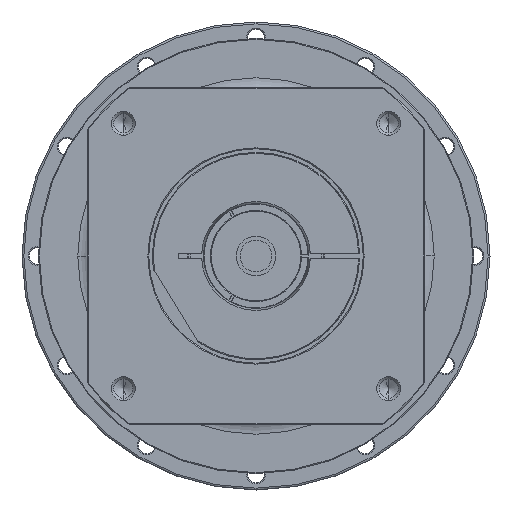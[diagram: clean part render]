
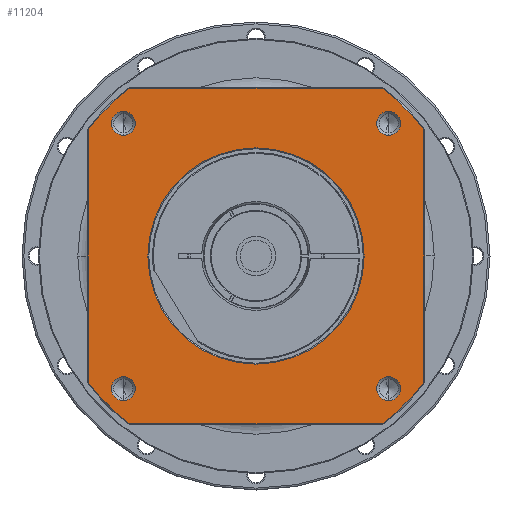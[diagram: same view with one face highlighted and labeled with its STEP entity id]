
A CAD part, left-side view. The second image highlights one B-rep face of the part: STEP entity #11204.
In plain terms, the highlighted planar face has unit normal (-1, 0, 0) as drawn and (0, 0, 1) by its records, which use the part's own axes.
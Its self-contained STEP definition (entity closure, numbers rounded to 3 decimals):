
#9932=DIRECTION('',(1.,0.,0.));
#9933=VECTOR('',#9932,134.666);
#9934=CARTESIAN_POINT('',(-67.333,-89.5,54.));
#9935=LINE('',#9934,#9933);
#9945=CARTESIAN_POINT('',(0.,0.,54.));
#9946=DIRECTION('',(0.,0.,-1.));
#9947=DIRECTION('',(0.,-1.,0.));
#9948=AXIS2_PLACEMENT_3D('',#9945,#9946,#9947);
#9950=CARTESIAN_POINT('',(0.,0.,
54.));
#9951=DIRECTION('',(0.,0.,-1.));
#9952=DIRECTION('',(0.,1.,0.));
#9953=AXIS2_PLACEMENT_3D('',#9950,#9951,#9952);
#9955=CARTESIAN_POINT('',(0.,0.,54.));
#9956=DIRECTION('',(0.,0.,1.));
#9957=DIRECTION('',(-0.799,-0.601,0.));
#9958=AXIS2_PLACEMENT_3D('',#9955,#9956,#9957);
#9970=DIRECTION('',(0.,-1.,0.));
#9971=VECTOR('',#9970,134.666);
#9972=CARTESIAN_POINT('',(-89.5,67.333,54.));
#9973=LINE('',#9972,#9971);
#9983=CARTESIAN_POINT('',(0.,0.,54.));
#9984=DIRECTION('',(0.,0.,1.));
#9985=DIRECTION('',(-0.601,0.799,0.));
#9986=AXIS2_PLACEMENT_3D('',#9983,#9984,#9985);
#10011=DIRECTION('',(-1.,0.,0.));
#10012=VECTOR('',#10011,134.666);
#10013=CARTESIAN_POINT('',(67.333,89.5,54.));
#10014=LINE('',#10013,#10012);
#10019=CARTESIAN_POINT('',(0.,0.,54.));
#10020=DIRECTION('',(0.,0.,1.));
#10021=DIRECTION('',(0.799,0.601,0.));
#10022=AXIS2_PLACEMENT_3D('',#10019,#10020,#10021);
#10034=DIRECTION('',(0.,1.,0.));
#10035=VECTOR('',#10034,134.666);
#10036=CARTESIAN_POINT('',(89.5,-67.333,54.));
#10037=LINE('',#10036,#10035);
#10139=CARTESIAN_POINT('',(0.,0.,54.));
#10140=DIRECTION('',(0.,0.,1.));
#10141=DIRECTION('',(0.601,-0.799,0.));
#10142=AXIS2_PLACEMENT_3D('',#10139,#10140,#10141);
#10421=CARTESIAN_POINT('',(-70.711,70.711,54.));
#10422=DIRECTION('',(0.,0.,1.));
#10423=DIRECTION('',(-1.,0.,0.));
#10424=AXIS2_PLACEMENT_3D('',#10421,#10422,#10423);
#10439=CARTESIAN_POINT('',(-70.711,70.711,54.));
#10440=DIRECTION('',(0.,0.,1.));
#10441=DIRECTION('',(1.,0.,0.));
#10442=AXIS2_PLACEMENT_3D('',#10439,#10440,#10441);
#10475=CARTESIAN_POINT('',(70.711,70.711,54.));
#10476=DIRECTION('',(0.,0.,1.));
#10477=DIRECTION('',(-1.,0.,0.));
#10478=AXIS2_PLACEMENT_3D('',#10475,#10476,#10477);
#10493=CARTESIAN_POINT('',(70.711,70.711,54.));
#10494=DIRECTION('',(0.,0.,1.));
#10495=DIRECTION('',(1.,0.,0.));
#10496=AXIS2_PLACEMENT_3D('',#10493,#10494,#10495);
#10529=CARTESIAN_POINT('',(70.711,-70.711,54.));
#10530=DIRECTION('',(0.,0.,1.));
#10531=DIRECTION('',(-1.,0.,0.));
#10532=AXIS2_PLACEMENT_3D('',#10529,#10530,#10531);
#10547=CARTESIAN_POINT('',(70.711,-70.711,54.));
#10548=DIRECTION('',(0.,0.,1.));
#10549=DIRECTION('',(1.,0.,0.));
#10550=AXIS2_PLACEMENT_3D('',#10547,#10548,#10549);
#10583=CARTESIAN_POINT('',(-70.711,-70.711,54.));
#10584=DIRECTION('',(0.,0.,1.));
#10585=DIRECTION('',(-1.,0.,0.));
#10586=AXIS2_PLACEMENT_3D('',#10583,#10584,#10585);
#10601=CARTESIAN_POINT('',(-70.711,-70.711,54.));
#10602=DIRECTION('',(0.,0.,1.));
#10603=DIRECTION('',(1.,0.,0.));
#10604=AXIS2_PLACEMENT_3D('',#10601,#10602,#10603);
#10645=CARTESIAN_POINT('',(89.5,-67.333,54.));
#10646=CARTESIAN_POINT('',(89.5,67.333,54.));
#10647=VERTEX_POINT('',#10645);
#10648=VERTEX_POINT('',#10646);
#10653=CARTESIAN_POINT('',(67.333,-89.5,54.));
#10654=VERTEX_POINT('',#10653);
#10657=CARTESIAN_POINT('',(-67.333,-89.5,54.));
#10658=VERTEX_POINT('',#10657);
#10661=CARTESIAN_POINT('',(-89.5,-67.333,54.));
#10662=VERTEX_POINT('',#10661);
#10665=CARTESIAN_POINT('',(-89.5,67.333,54.));
#10666=VERTEX_POINT('',#10665);
#10669=CARTESIAN_POINT('',(-67.333,89.5,54.));
#10670=VERTEX_POINT('',#10669);
#10673=CARTESIAN_POINT('',(67.333,89.5,54.));
#10674=VERTEX_POINT('',#10673);
#10723=CARTESIAN_POINT('',(-77.111,70.711,54.));
#10724=CARTESIAN_POINT('',(-64.311,70.711,54.));
#10725=VERTEX_POINT('',#10723);
#10726=VERTEX_POINT('',#10724);
#10757=CARTESIAN_POINT('',(77.111,70.711,54.));
#10758=CARTESIAN_POINT('',(64.311,70.711,54.));
#10759=VERTEX_POINT('',#10757);
#10760=VERTEX_POINT('',#10758);
#10765=CARTESIAN_POINT('',(77.111,-70.711,54.));
#10766=CARTESIAN_POINT('',(64.311,-70.711,54.));
#10767=VERTEX_POINT('',#10765);
#10768=VERTEX_POINT('',#10766);
#10773=CARTESIAN_POINT('',(-64.311,-70.711,54.));
#10774=CARTESIAN_POINT('',(-77.111,-70.711,54.));
#10775=VERTEX_POINT('',#10773);
#10776=VERTEX_POINT('',#10774);
#10781=CARTESIAN_POINT('',(0.,-57.65,54.));
#10782=CARTESIAN_POINT('',(0.,57.65,54.));
#10783=VERTEX_POINT('',#10781);
#10784=VERTEX_POINT('',#10782);
#11152=CARTESIAN_POINT('',(0.,0.,54.));
#11153=DIRECTION('',(0.,0.,1.));
#11154=DIRECTION('',(1.,0.,0.));
#11155=AXIS2_PLACEMENT_3D('',#11152,#11153,#11154);
#11156=PLANE('',#11155);
#11158=ORIENTED_EDGE('',*,*,#11157,.F.);
#11160=ORIENTED_EDGE('',*,*,#11159,.F.);
#11162=ORIENTED_EDGE('',*,*,#11161,.F.);
#11164=ORIENTED_EDGE('',*,*,#11163,.F.);
#11166=ORIENTED_EDGE('',*,*,#11165,.F.);
#11168=ORIENTED_EDGE('',*,*,#11167,.F.);
#11170=ORIENTED_EDGE('',*,*,#11169,.F.);
#11171=ORIENTED_EDGE('',*,*,#11142,.F.);
#11172=EDGE_LOOP('',(#11158,#11160,#11162,#11164,#11166,#11168,#11170,#11171));
#11173=FACE_OUTER_BOUND('',#11172,.F.);
#11175=ORIENTED_EDGE('',*,*,#11174,.F.);
#11177=ORIENTED_EDGE('',*,*,#11176,.F.);
#11178=EDGE_LOOP('',(#11175,#11177));
#11179=FACE_BOUND('',#11178,.F.);
#11181=ORIENTED_EDGE('',*,*,#11180,.T.);
#11183=ORIENTED_EDGE('',*,*,#11182,.T.);
#11184=EDGE_LOOP('',(#11181,#11183));
#11185=FACE_BOUND('',#11184,.F.);
#11187=ORIENTED_EDGE('',*,*,#11186,.T.);
#11189=ORIENTED_EDGE('',*,*,#11188,.T.);
#11190=EDGE_LOOP('',(#11187,#11189));
#11191=FACE_BOUND('',#11190,.F.);
#11193=ORIENTED_EDGE('',*,*,#11192,.T.);
#11195=ORIENTED_EDGE('',*,*,#11194,.T.);
#11196=EDGE_LOOP('',(#11193,#11195));
#11197=FACE_BOUND('',#11196,.F.);
#11199=ORIENTED_EDGE('',*,*,#11198,.T.);
#11201=ORIENTED_EDGE('',*,*,#11200,.T.);
#11202=EDGE_LOOP('',(#11199,#11201));
#11203=FACE_BOUND('',#11202,.F.);
#11204=ADVANCED_FACE('',(#11173,#11179,#11185,#11191,#11197,#11203),#11156,.T.);
#9949=CIRCLE('',#9948,57.65);
#9954=CIRCLE('',#9953,57.65);
#9959=CIRCLE('',#9958,112.);
#9987=CIRCLE('',#9986,112.);
#10023=CIRCLE('',#10022,112.);
#10143=CIRCLE('',#10142,112.);
#10425=CIRCLE('',#10424,6.4);
#10443=CIRCLE('',#10442,6.4);
#10479=CIRCLE('',#10478,6.4);
#10497=CIRCLE('',#10496,6.4);
#10533=CIRCLE('',#10532,6.4);
#10551=CIRCLE('',#10550,6.4);
#10587=CIRCLE('',#10586,6.4);
#10605=CIRCLE('',#10604,6.4);
#11142=EDGE_CURVE('',#10658,#10654,#9935,.T.);
#11157=EDGE_CURVE('',#10662,#10658,#9959,.T.);
#11159=EDGE_CURVE('',#10666,#10662,#9973,.T.);
#11161=EDGE_CURVE('',#10670,#10666,#9987,.T.);
#11163=EDGE_CURVE('',#10674,#10670,#10014,.T.);
#11165=EDGE_CURVE('',#10648,#10674,#10023,.T.);
#11167=EDGE_CURVE('',#10647,#10648,#10037,.T.);
#11169=EDGE_CURVE('',#10654,#10647,#10143,.T.);
#11174=EDGE_CURVE('',#10783,#10784,#9949,.T.);
#11176=EDGE_CURVE('',#10784,#10783,#9954,.T.);
#11180=EDGE_CURVE('',#10725,#10726,#10425,.T.);
#11182=EDGE_CURVE('',#10726,#10725,#10443,.T.);
#11186=EDGE_CURVE('',#10760,#10759,#10479,.T.);
#11188=EDGE_CURVE('',#10759,#10760,#10497,.T.);
#11192=EDGE_CURVE('',#10768,#10767,#10533,.T.);
#11194=EDGE_CURVE('',#10767,#10768,#10551,.T.);
#11198=EDGE_CURVE('',#10776,#10775,#10587,.T.);
#11200=EDGE_CURVE('',#10775,#10776,#10605,.T.);
